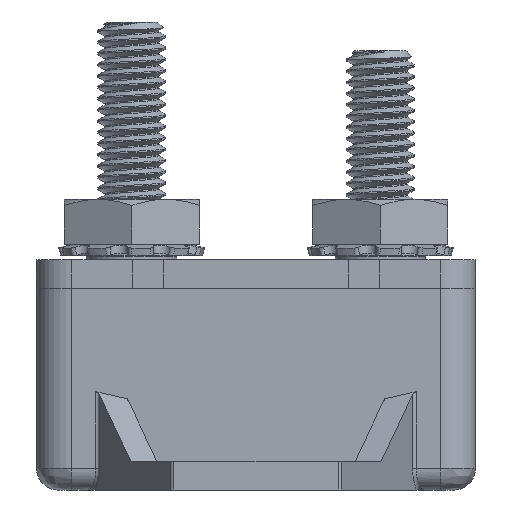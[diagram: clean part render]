
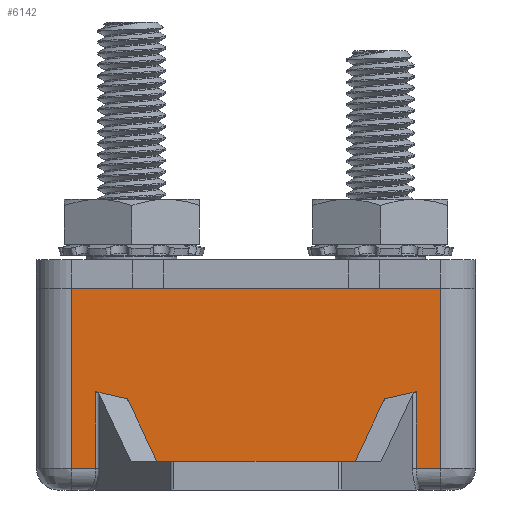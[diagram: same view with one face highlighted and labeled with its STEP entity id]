
A CAD part, front view. The second image highlights one B-rep face of the part: STEP entity #6142.
In plain terms, the highlighted planar face has unit normal (0, -1, 0).
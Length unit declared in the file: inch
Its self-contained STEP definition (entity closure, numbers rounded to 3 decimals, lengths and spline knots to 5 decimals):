
#578=PLANE('',#6586);
#721=FACE_OUTER_BOUND('',#1073,.T.);
#1073=EDGE_LOOP('',(#4191,#4192,#4193,#4194,#4195,#4196,#4197,#4198,#4199,
#4200,#4201,#4202));
#1409=LINE('',#8281,#1869);
#1435=LINE('',#8422,#1895);
#1447=LINE('',#8463,#1907);
#1451=LINE('',#8509,#1911);
#1453=LINE('',#8512,#1913);
#1460=LINE('',#8538,#1920);
#1462=LINE('',#8541,#1922);
#1464=LINE('',#8546,#1924);
#1465=LINE('',#8548,#1925);
#1466=LINE('',#8550,#1926);
#1467=LINE('',#8552,#1927);
#1468=LINE('',#8553,#1928);
#1869=VECTOR('',#6964,0.3937);
#1895=VECTOR('',#7026,0.3937);
#1907=VECTOR('',#7068,0.3937);
#1911=VECTOR('',#7082,0.3937);
#1913=VECTOR('',#7086,0.3937);
#1920=VECTOR('',#7109,0.3937);
#1922=VECTOR('',#7113,0.3937);
#1924=VECTOR('',#7119,0.3937);
#1925=VECTOR('',#7120,0.3937);
#1926=VECTOR('',#7121,0.3937);
#1927=VECTOR('',#7122,0.3937);
#1928=VECTOR('',#7123,0.3937);
#2454=VERTEX_POINT('',#8263);
#2458=VERTEX_POINT('',#8279);
#2488=VERTEX_POINT('',#8419);
#2489=VERTEX_POINT('',#8421);
#2502=VERTEX_POINT('',#8460);
#2503=VERTEX_POINT('',#8462);
#2507=VERTEX_POINT('',#8508);
#2518=VERTEX_POINT('',#8537);
#2519=VERTEX_POINT('',#8545);
#2520=VERTEX_POINT('',#8547);
#2521=VERTEX_POINT('',#8549);
#2522=VERTEX_POINT('',#8551);
#3091=EDGE_CURVE('',#2458,#2454,#1409,.T.);
#3129=EDGE_CURVE('',#2489,#2488,#1435,.T.);
#3150=EDGE_CURVE('',#2502,#2503,#1447,.T.);
#3158=EDGE_CURVE('',#2458,#2507,#1451,.T.);
#3160=EDGE_CURVE('',#2507,#2489,#1453,.T.);
#3173=EDGE_CURVE('',#2518,#2503,#1460,.T.);
#3175=EDGE_CURVE('',#2488,#2518,#1462,.T.);
#3177=EDGE_CURVE('',#2519,#2502,#1464,.T.);
#3178=EDGE_CURVE('',#2520,#2519,#1465,.T.);
#3179=EDGE_CURVE('',#2521,#2520,#1466,.T.);
#3180=EDGE_CURVE('',#2522,#2521,#1467,.T.);
#3181=EDGE_CURVE('',#2454,#2522,#1468,.T.);
#4191=ORIENTED_EDGE('',*,*,#3158,.T.);
#4192=ORIENTED_EDGE('',*,*,#3160,.T.);
#4193=ORIENTED_EDGE('',*,*,#3129,.T.);
#4194=ORIENTED_EDGE('',*,*,#3175,.T.);
#4195=ORIENTED_EDGE('',*,*,#3173,.T.);
#4196=ORIENTED_EDGE('',*,*,#3150,.F.);
#4197=ORIENTED_EDGE('',*,*,#3177,.F.);
#4198=ORIENTED_EDGE('',*,*,#3178,.F.);
#4199=ORIENTED_EDGE('',*,*,#3179,.F.);
#4200=ORIENTED_EDGE('',*,*,#3180,.F.);
#4201=ORIENTED_EDGE('',*,*,#3181,.F.);
#4202=ORIENTED_EDGE('',*,*,#3091,.F.);
#6142=ADVANCED_FACE('',(#721),#578,.T.);
#6586=AXIS2_PLACEMENT_3D('',#8544,#7117,#7118);
#6964=DIRECTION('',(0.,0.,-1.));
#7026=DIRECTION('',(1.,0.,0.));
#7068=DIRECTION('',(0.,0.,1.));
#7082=DIRECTION('',(0.975,0.,-0.221));
#7086=DIRECTION('',(0.,0.,-1.));
#7109=DIRECTION('',(0.975,0.,0.221));
#7113=DIRECTION('',(0.,0.,1.));
#7117=DIRECTION('center_axis',(0.,-1.,0.));
#7118=DIRECTION('ref_axis',(1.,0.,0.));
#7119=DIRECTION('',(-1.,0.,0.));
#7120=DIRECTION('',(0.,0.,-1.));
#7121=DIRECTION('',(1.,0.,0.));
#7122=DIRECTION('',(0.,0.,1.));
#7123=DIRECTION('',(-1.,0.,0.));
#8263=CARTESIAN_POINT('',(0.16538,0.,0.06));
#8279=CARTESIAN_POINT('',(0.16538,0.,0.27301));
#8281=CARTESIAN_POINT('',(0.16538,0.,0.));
#8419=CARTESIAN_POINT('',(0.96708,0.,0.08));
#8421=CARTESIAN_POINT('',(0.25292,0.,0.08));
#8422=CARTESIAN_POINT('',(0.305,0.,0.08));
#8460=CARTESIAN_POINT('',(1.05462,0.,0.06));
#8462=CARTESIAN_POINT('',(1.05462,0.,0.27301));
#8463=CARTESIAN_POINT('',(1.05462,0.,0.));
#8508=CARTESIAN_POINT('',(0.25292,0.,0.25315));
#8509=CARTESIAN_POINT('',(0.08532,0.,0.29116));
#8512=CARTESIAN_POINT('',(0.25292,0.,0.06141));
#8537=CARTESIAN_POINT('',(0.96708,0.,0.25315));
#8538=CARTESIAN_POINT('',(0.55452,0.,0.15959));
#8541=CARTESIAN_POINT('',(0.96708,0.,0.06141));
#8544=CARTESIAN_POINT('Origin',(0.,0.,0.));
#8545=CARTESIAN_POINT('',(1.12157,0.,0.06));
#8546=CARTESIAN_POINT('',(0.305,0.,0.06));
#8547=CARTESIAN_POINT('',(1.12157,0.,0.56));
#8548=CARTESIAN_POINT('',(1.12157,0.,0.));
#8549=CARTESIAN_POINT('',(0.09843,0.,0.56));
#8550=CARTESIAN_POINT('',(0.,0.,0.56));
#8551=CARTESIAN_POINT('',(0.09843,0.,0.06));
#8552=CARTESIAN_POINT('',(0.09843,0.,0.));
#8553=CARTESIAN_POINT('',(0.305,0.,0.06));
